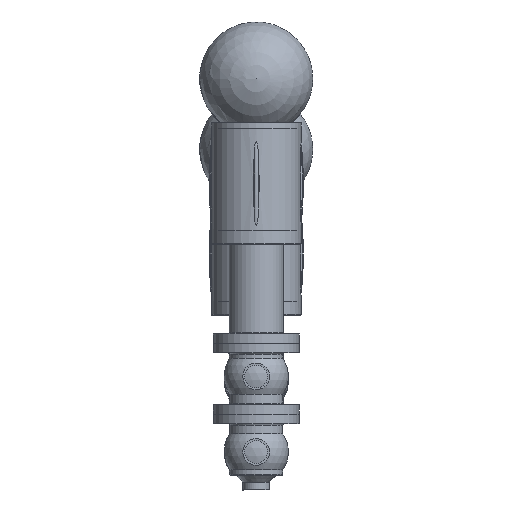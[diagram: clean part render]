
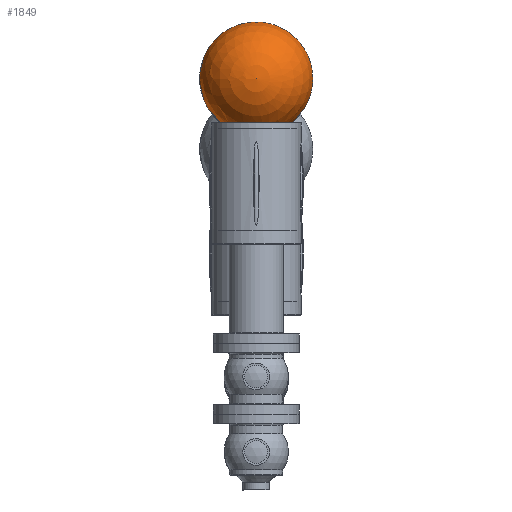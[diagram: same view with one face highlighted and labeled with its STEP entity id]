
A CAD part, front view. The second image highlights one B-rep face of the part: STEP entity #1849.
In plain terms, the highlighted spherical face has radius 72.5 mm.
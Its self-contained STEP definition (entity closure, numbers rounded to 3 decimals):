
#216=SPHERICAL_SURFACE('',#2231,72.5);
#240=FACE_BOUND('',#484,.T.);
#357=FACE_OUTER_BOUND('',#483,.T.);
#483=EDGE_LOOP('',(#1593,#1594));
#484=EDGE_LOOP('',(#1595));
#732=CIRCLE('',#2232,72.5);
#733=CIRCLE('',#2233,46.648);
#927=VERTEX_POINT('',#3727);
#928=VERTEX_POINT('',#3728);
#929=VERTEX_POINT('',#3730);
#1161=EDGE_CURVE('',#927,#928,#732,.T.);
#1162=EDGE_CURVE('',#929,#929,#733,.T.);
#1593=ORIENTED_EDGE('',*,*,#1161,.T.);
#1594=ORIENTED_EDGE('',*,*,#1161,.F.);
#1595=ORIENTED_EDGE('',*,*,#1162,.F.);
#1849=ADVANCED_FACE('',(#357,#240),#216,.T.);
#2231=AXIS2_PLACEMENT_3D('',#3726,#2780,#2781);
#2232=AXIS2_PLACEMENT_3D('',#3729,#2782,#2783);
#2233=AXIS2_PLACEMENT_3D('',#3731,#2784,#2785);
#2780=DIRECTION('center_axis',(0.,0.,1.));
#2781=DIRECTION('ref_axis',(1.,0.,0.));
#2782=DIRECTION('center_axis',(0.,-1.,0.));
#2783=DIRECTION('ref_axis',(-1.,0.,0.));
#2784=DIRECTION('center_axis',(0.,-1.,0.));
#2785=DIRECTION('ref_axis',(1.,0.,0.));
#3726=CARTESIAN_POINT('Origin',(150.,266.5,0.));
#3727=CARTESIAN_POINT('',(150.,266.5,72.5));
#3728=CARTESIAN_POINT('',(150.,266.5,-72.5));
#3729=CARTESIAN_POINT('Origin',(150.,266.5,0.));
#3730=CARTESIAN_POINT('',(196.648,211.,0.));
#3731=CARTESIAN_POINT('Origin',(150.,211.,0.));
